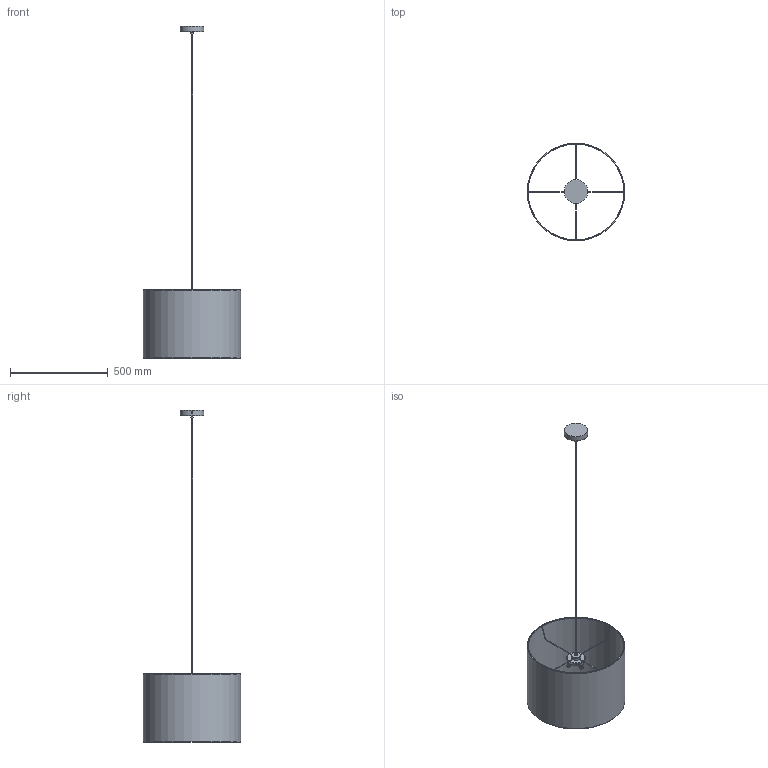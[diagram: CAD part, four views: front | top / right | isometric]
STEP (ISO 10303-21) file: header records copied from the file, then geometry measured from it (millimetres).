
FILE_DESCRIPTION(/* description */ (''),/* implementation_level */ '2;1');
FILE_NAME(/* name */ 'C:/Users/Jakub Wieczorkowski/Desktop/TERCINO_6122_dobre v1.step',/* time_stamp */ '2022-02-23T08:53:10+01:00',/* author */ (''),/* organization */ (''),/* preprocessor_version */ 'ST-DEVELOPER v18.1',/* originating_system */ 'Autodesk Translation Framework v10.13.0.1454',/* authorisation */ '');
FILE_SCHEMA (('AUTOMOTIVE_DESIGN { 1 0 10303 214 3 1 1 }'));
Length unit declared in the file: millimetre
Products named in the file (6): TERCINO_6122_dobre; Cięgno v1; TERCINO_KLOSZ_6122 v2; SRUBA TERCINO v1; SRUBA TERCINO v1(Mirror); MOCOWANIE_TERCINO v3
Assembly tree (5 placements, depth 2):
  TERCINO_6122_dobre
    Cięgno v1
    TERCINO_KLOSZ_6122 v2
    SRUBA TERCINO v1
    SRUBA TERCINO v1(Mirror)
    MOCOWANIE_TERCINO v3
Bounding box: 500 x 500 x 1700 mm (x, y, z)
Volume: 1727368.6 mm3; surface area: 1234234.1 mm2
Topology: 16 solids, 16 shells, 231 faces, 555 edges, 363 vertices
Faces by surface type: cylinder 96, plane 84, bspline 25, torus 21, cone 5
Full cylindrical faces by diameter (mm): 3 x8, 5 x1, 6 x1, 8 x2, 14.023 x15, 16 x3, 16.25 x15, 20 x3, 50 x1, 120 x1, 490 x2, 496 x1, 500 x1
Entity records: 12977 total; most frequent: CARTESIAN_POINT 7681, ORIENTED_EDGE 1110, DIRECTION 995, EDGE_CURVE 555, AXIS2_PLACEMENT_3D 414, VERTEX_POINT 363, EDGE_LOOP 244, FACE_OUTER_BOUND 231
